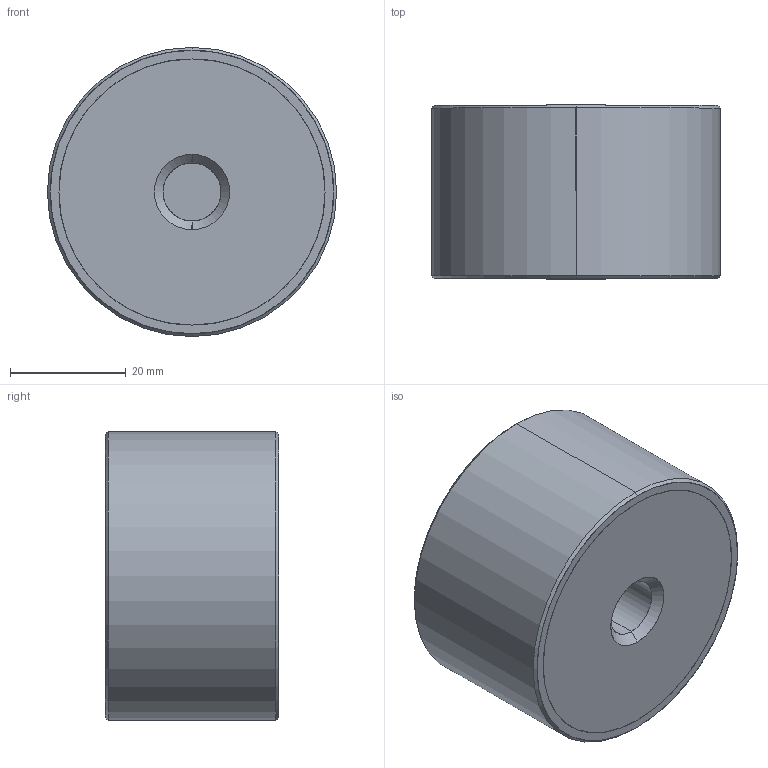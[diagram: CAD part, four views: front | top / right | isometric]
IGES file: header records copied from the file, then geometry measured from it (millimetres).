
Start section: SolidWorks IGES file using analytic representation for surfaces
Global section: file name: E:\WIXROYD 20180701\61080_v2\61080_v2_20180409_IGES\61080.W0501.igs; native system: SolidWorks 2017; preprocessor: SolidWorks 2017; author: liam_; date: 180716.214507; units: millimetre
Bounding box: 50 x 30 x 50 mm (x, y, z)
Surface area: 16326.2 mm2 (no closed solid volume)
Topology: 0 solids, 0 shells, 32 faces, 984 edges, 984 vertices
Faces by surface type: revolution 22, bspline 10
